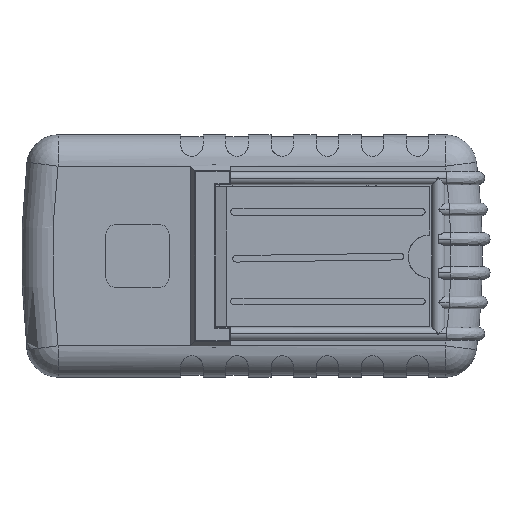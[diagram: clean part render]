
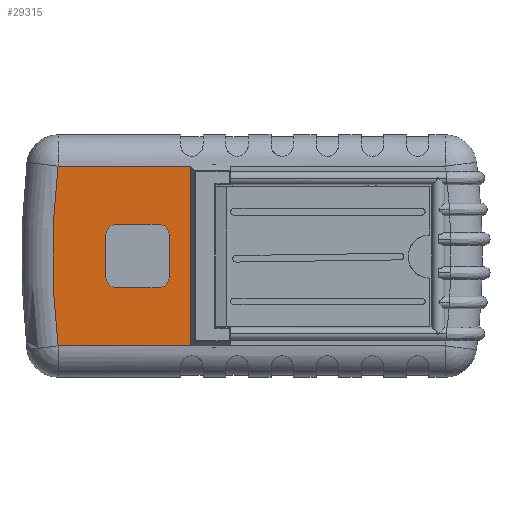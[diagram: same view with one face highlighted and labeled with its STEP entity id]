
A CAD part, front view. The second image highlights one B-rep face of the part: STEP entity #29315.
In plain terms, the highlighted planar face has unit normal (0, -1, 0).
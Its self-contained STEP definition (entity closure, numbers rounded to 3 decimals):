
#694 = AXIS2_PLACEMENT_3D ( 'NONE', #33720, #11357, #37491 ) ;
#714 = CARTESIAN_POINT ( 'NONE',  ( -39.518, 0., -15.088 ) ) ;
#1916 = EDGE_CURVE ( 'NONE', #36324, #42123, #22258, .T. ) ;
#2160 = CARTESIAN_POINT ( 'NONE',  ( 0., 0., 0. ) ) ;
#2409 = VECTOR ( 'NONE', #7923, 1000. ) ;
#2617 = CARTESIAN_POINT ( 'NONE',  ( -69.694, 0., 10.312 ) ) ;
#2699 = EDGE_CURVE ( 'NONE', #8066, #21644, #18136, .T. ) ;
#3352 = EDGE_CURVE ( 'NONE', #44327, #11403, #38065, .T. ) ;
#4307 = EDGE_CURVE ( 'NONE', #11403, #25547, #30277, .T. ) ;
#4595 = EDGE_CURVE ( 'NONE', #31034, #42123, #18535, .T. ) ;
#5952 = DIRECTION ( 'NONE',  ( 0., 0., 1. ) ) ;
#7036 = DIRECTION ( 'NONE',  ( 1., 0., 0. ) ) ;
#7412 = VECTOR ( 'NONE', #7036, 1000. ) ;
#7721 = ORIENTED_EDGE ( 'NONE', *, *, #4595, .F. ) ;
#7923 = DIRECTION ( 'NONE',  ( 1., 0., 0. ) ) ;
#8066 = VERTEX_POINT ( 'NONE', #15371 ) ;
#8213 = ORIENTED_EDGE ( 'NONE', *, *, #9641, .T. ) ;
#9315 = DIRECTION ( 'NONE',  ( 0., 0., 1. ) ) ;
#9641 = EDGE_CURVE ( 'NONE', #28834, #44327, #36250, .T. ) ;
#9818 = CARTESIAN_POINT ( 'NONE',  ( -92.557, 0., 42.937 ) ) ;
#10957 = CARTESIAN_POINT ( 'NONE',  ( -44.294, 0., -10.312 ) ) ;
#11357 = DIRECTION ( 'NONE',  ( 0., 1., 0. ) ) ;
#11403 = VERTEX_POINT ( 'NONE', #16779 ) ;
#12195 = ORIENTED_EDGE ( 'NONE', *, *, #23044, .T. ) ;
#12751 = EDGE_CURVE ( 'NONE', #38836, #8066, #23839, .T. ) ;
#13684 = EDGE_CURVE ( 'NONE', #25021, #28834, #27273, .T. ) ;
#13961 = DIRECTION ( 'NONE',  ( 0., -1., 0. ) ) ;
#14686 = DIRECTION ( 'NONE',  ( 0., 0., 1. ) ) ;
#15252 = CARTESIAN_POINT ( 'NONE',  ( 0., 0., 42.937 ) ) ;
#15371 = CARTESIAN_POINT ( 'NONE',  ( -69.694, 0., -10.312 ) ) ;
#15383 = ORIENTED_EDGE ( 'NONE', *, *, #2699, .T. ) ;
#15628 = DIRECTION ( 'NONE',  ( 0., 0., -1. ) ) ;
#16064 = ORIENTED_EDGE ( 'NONE', *, *, #27703, .T. ) ;
#16146 = FACE_BOUND ( 'NONE', #19932, .T. ) ;
#16655 = CARTESIAN_POINT ( 'NONE',  ( -69.694, 0., -15.088 ) ) ;
#16779 = CARTESIAN_POINT ( 'NONE',  ( -39.518, 0., -10.312 ) ) ;
#17018 = AXIS2_PLACEMENT_3D ( 'NONE', #19266, #45492, #23019 ) ;
#18136 = LINE ( 'NONE', #16655, #46883 ) ;
#18515 = EDGE_LOOP ( 'NONE', ( #7721, #16064, #12195, #19624 ) ) ;
#18535 = LINE ( 'NONE', #22690, #19689 ) ;
#18600 = LINE ( 'NONE', #31119, #27357 ) ;
#19019 = CARTESIAN_POINT ( 'NONE',  ( -44.294, 0., 10.312 ) ) ;
#19266 = CARTESIAN_POINT ( 'NONE',  ( -64.918, 0., -10.312 ) ) ;
#19304 = ORIENTED_EDGE ( 'NONE', *, *, #4307, .T. ) ;
#19624 = ORIENTED_EDGE ( 'NONE', *, *, #1916, .T. ) ;
#19689 = VECTOR ( 'NONE', #30096, 1000. ) ;
#19764 = CARTESIAN_POINT ( 'NONE',  ( -29.358, 0., 42.937 ) ) ;
#19932 = EDGE_LOOP ( 'NONE', ( #23620, #19304, #30840, #45740, #15383, #35985, #21649, #8213 ) ) ;
#19969 = DIRECTION ( 'NONE',  ( -1., 0., 0. ) ) ;
#20607 = AXIS2_PLACEMENT_3D ( 'NONE', #10957, #37109, #14686 ) ;
#21644 = VERTEX_POINT ( 'NONE', #2617 ) ;
#21649 = ORIENTED_EDGE ( 'NONE', *, *, #13684, .T. ) ;
#21750 = CARTESIAN_POINT ( 'NONE',  ( -39.518, 0., 10.312 ) ) ;
#22258 = LINE ( 'NONE', #41397, #2409 ) ;
#22690 = CARTESIAN_POINT ( 'NONE',  ( -29.358, 0., 43.015 ) ) ;
#22752 = DIRECTION ( 'NONE',  ( 0., 0., 1. ) ) ;
#23019 = DIRECTION ( 'NONE',  ( 0., 0., 1. ) ) ;
#23044 = EDGE_CURVE ( 'NONE', #38960, #36324, #27317, .T. ) ;
#23620 = ORIENTED_EDGE ( 'NONE', *, *, #3352, .T. ) ;
#23839 = CIRCLE ( 'NONE', #17018, 4.775 ) ;
#24454 = CARTESIAN_POINT ( 'NONE',  ( -44.294, 0., 15.088 ) ) ;
#24552 = PLANE ( 'NONE',  #25702 ) ;
#24989 = AXIS2_PLACEMENT_3D ( 'NONE', #19019, #45223, #22752 ) ;
#25021 = VERTEX_POINT ( 'NONE', #35131 ) ;
#25547 = VERTEX_POINT ( 'NONE', #35912 ) ;
#25702 = AXIS2_PLACEMENT_3D ( 'NONE', #2160, #28326, #5952 ) ;
#25715 = DIRECTION ( 'NONE',  ( -1., 0., 0. ) ) ;
#26046 = FACE_OUTER_BOUND ( 'NONE', #18515, .T. ) ;
#26893 = VECTOR ( 'NONE', #15628, 1000. ) ;
#27273 = LINE ( 'NONE', #33179, #7412 ) ;
#27317 = CIRCLE ( 'NONE', #33303, 345.637 ) ;
#27357 = VECTOR ( 'NONE', #19969, 1000. ) ;
#27703 = EDGE_CURVE ( 'NONE', #31034, #38960, #42024, .T. ) ;
#27787 = EDGE_CURVE ( 'NONE', #25547, #38836, #18600, .T. ) ;
#28326 = DIRECTION ( 'NONE',  ( 0., 1., 0. ) ) ;
#28834 = VERTEX_POINT ( 'NONE', #24454 ) ;
#29315 = ADVANCED_FACE ( 'NONE', ( #16146, #26046 ), #24552, .F. ) ;
#30096 = DIRECTION ( 'NONE',  ( 0., 0., -1. ) ) ;
#30277 = CIRCLE ( 'NONE', #20607, 4.775 ) ;
#30840 = ORIENTED_EDGE ( 'NONE', *, *, #27787, .T. ) ;
#31034 = VERTEX_POINT ( 'NONE', #19764 ) ;
#31119 = CARTESIAN_POINT ( 'NONE',  ( -69.694, 0., -15.088 ) ) ;
#33179 = CARTESIAN_POINT ( 'NONE',  ( -69.694, 0., 15.088 ) ) ;
#33242 = VECTOR ( 'NONE', #25715, 1000. ) ;
#33303 = AXIS2_PLACEMENT_3D ( 'NONE', #36362, #13961, #40144 ) ;
#33720 = CARTESIAN_POINT ( 'NONE',  ( -64.918, 0., 10.312 ) ) ;
#34380 = CARTESIAN_POINT ( 'NONE',  ( -92.557, 0., -42.937 ) ) ;
#35131 = CARTESIAN_POINT ( 'NONE',  ( -64.918, 0., 15.088 ) ) ;
#35467 = CARTESIAN_POINT ( 'NONE',  ( -64.918, 0., -15.088 ) ) ;
#35912 = CARTESIAN_POINT ( 'NONE',  ( -44.294, 0., -15.088 ) ) ;
#35985 = ORIENTED_EDGE ( 'NONE', *, *, #36232, .T. ) ;
#36232 = EDGE_CURVE ( 'NONE', #21644, #25021, #37569, .T. ) ;
#36250 = CIRCLE ( 'NONE', #24989, 4.775 ) ;
#36324 = VERTEX_POINT ( 'NONE', #34380 ) ;
#36362 = CARTESIAN_POINT ( 'NONE',  ( 250.403, 0., 0. ) ) ;
#37109 = DIRECTION ( 'NONE',  ( 0., 1., 0. ) ) ;
#37491 = DIRECTION ( 'NONE',  ( 0., 0., 1. ) ) ;
#37569 = CIRCLE ( 'NONE', #694, 4.775 ) ;
#38065 = LINE ( 'NONE', #714, #26893 ) ;
#38836 = VERTEX_POINT ( 'NONE', #35467 ) ;
#38960 = VERTEX_POINT ( 'NONE', #9818 ) ;
#40144 = DIRECTION ( 'NONE',  ( 0., 0., 1. ) ) ;
#41045 = CARTESIAN_POINT ( 'NONE',  ( -29.358, 0., -42.937 ) ) ;
#41397 = CARTESIAN_POINT ( 'NONE',  ( 0., 0., -42.937 ) ) ;
#42024 = LINE ( 'NONE', #15252, #33242 ) ;
#42123 = VERTEX_POINT ( 'NONE', #41045 ) ;
#44327 = VERTEX_POINT ( 'NONE', #21750 ) ;
#45223 = DIRECTION ( 'NONE',  ( 0., 1., 0. ) ) ;
#45492 = DIRECTION ( 'NONE',  ( 0., 1., 0. ) ) ;
#45740 = ORIENTED_EDGE ( 'NONE', *, *, #12751, .T. ) ;
#46883 = VECTOR ( 'NONE', #9315, 1000. ) ;
